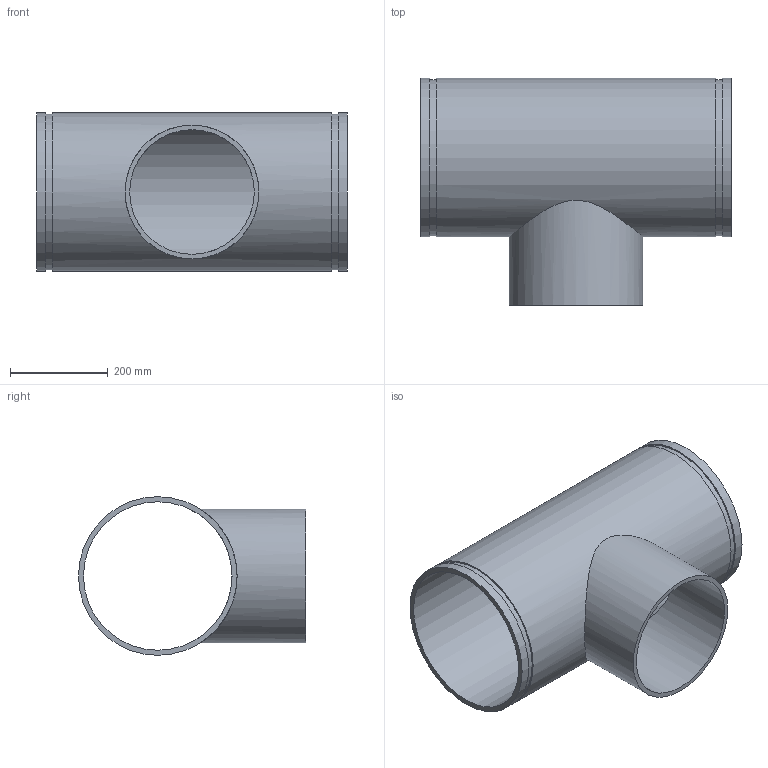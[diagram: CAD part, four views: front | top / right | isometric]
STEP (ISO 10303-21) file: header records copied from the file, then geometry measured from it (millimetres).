
FILE_DESCRIPTION(/* description */ ('VIC REDUCING TEE No 29T FFT (OGSxMPT)','CAx-IF Rec.Pracs.---Representation and Presentation of Product Manufacturing Information (PMI)---4.0---2014-10-13'),/* implementation_level */ '2;1');
FILE_NAME(/* name */ 'C:\Users\kkamble\AppData\Roaming\Autodesk\ApplicationPlugins\Back Up\Victaulic_IPS_Tee Reducing_No 29T FFT (OGSxMPT)\Victaulic_IPS_Tee Reducing_No 29T FFT (OGSxMPT)_12.0x10.0 (300x250).stp',/* time_stamp */ '2020-09-16T22:39:31+05:00',/* author */ ('CORINNE GRAY'),/* organization */ ('Victaulic'),/* preprocessor_version */ 'ST-DEVELOPER v17.2',/* originating_system */ 'Autodesk Inventor 2019',/* authorisation */ '');
FILE_SCHEMA (('AP242_MANAGED_MODEL_BASED_3D_ENGINEERING_MIM_LF { 1 0 10303 442 1 1 4 }'));
Length unit declared in the file: inch
Products named in the file (1): 29 FFT-12.0x10.0
Bounding box: 635 x 463.68 x 323.85 mm (x, y, z)
Volume: 7113370.6 mm3; surface area: 1461576.3 mm2
Topology: 1 solids, 1 shells, 15 faces, 32 edges, 24 vertices
Faces by surface type: cylinder 8, plane 7
Full cylindrical faces by diameter (mm): 254.508 x1, 273.05 x1, 303.225 x1, 318.287 x2, 323.85 x3
Entity records: 725 total; most frequent: CARTESIAN_POINT 237, DIRECTION 106, ORIENTED_EDGE 64, AXIS2_PLACEMENT_3D 49, EDGE_CURVE 32, EDGE_LOOP 24, VERTEX_POINT 24, CIRCLE 20
